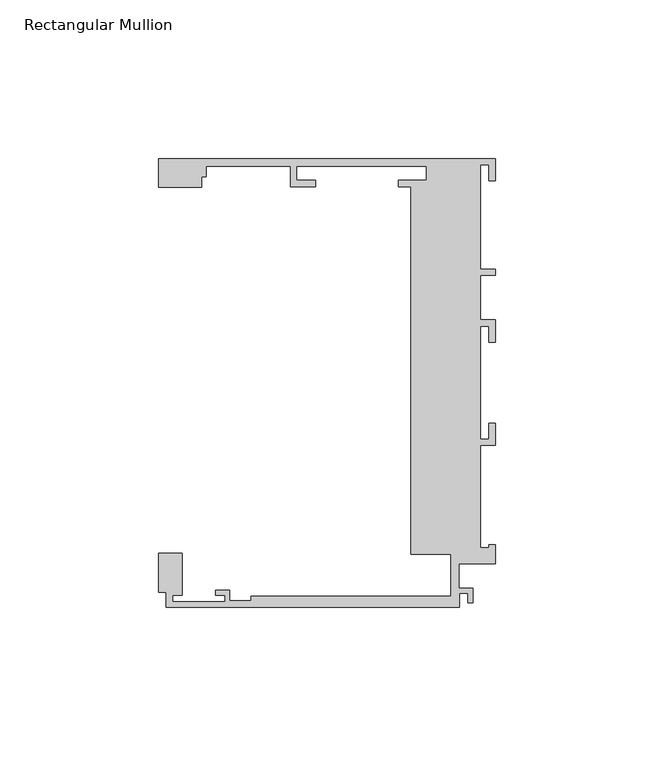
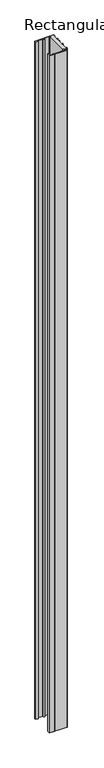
"""IFC4 building model written with IfcOpenShell, lengths in millimetres: member geometry, Rectangular Mullion : Danpal_K12_End-Mullion_B1."""

from ifc_helpers import new_model, si_unit, frame, origin, place, context, project, spatial, polyline, outline, extrude, source, transform, mapped, element, save


def rectangular_mullion_7b4f4ae0(model_context):
    return source(origin(), model_context, "Body", "SweptSolid", [
        extrude(outline(polyline([(-26.6209612, 117.8676658), (-30.6, 117.8676658), (-30.6, 119.8676658), (-21.835, 119.8676658), (-21.835, 124.2676658), (-62.7350275, 124.2676658), (-62.7350275, 119.8676658), (-56.7350275, 119.8676658), (-56.7350275, 117.8676658), (-64.7350275, 117.8676658), (-64.7350275, 124.2676658), (-91.2900275, 124.2676658), (-91.2900275, 121.0676175), (-92.8228167, 121.0676175), (-92.8228167, 117.6986749), (-106.4117426, 117.6986749), (-106.4117426, 126.7676657), (0.0, 126.7676657), (0.0, 119.7676657), (-2.0, 119.7676657), (-2.0, 124.7676657), (-4.8, 124.7676657), (-4.8, 91.8676485), (0.0, 91.8676485), (0.0, 89.8676485), (-4.8, 89.8676485), (-4.8, 75.867683), (0.0, 75.867683), (0.0, 68.8676657), (-2.0, 68.8676657), (-2.0, 73.8676657), (-4.8, 73.8676657), (-4.8, 38.2443486), (-2.0, 38.2443486), (-2.0, 43.2443486), (0.0, 43.2443486), (0.0, 36.2443486), (-4.8, 36.2443486), (-4.8, 3.9448486), (-2.0, 3.9448486), (-2.0, 4.9448486), (0.0, 4.9448486), (0.0, -1.0551514), (-11.6055875, -1.0551514), (-11.6055875, -8.8006425), (-7.1518595, -8.8006425), (-7.1518595, -13.3051514), (-8.6518595, -13.3051514), (-8.6518595, -10.3006425), (-11.4019537, -10.3006425), (-11.4019537, -14.8051514), (-103.8999976, -14.8051514), (-103.8999976, -10.065304), (-106.4117426, -10.065304), (-106.4117426, 2.316674), (-98.8999976, 2.316674), (-98.8999976, -11.0051513), (-101.8999976, -11.0051513), (-101.8999976, -13.0051512), (-85.3999976, -13.0051512), (-85.3999976, -11.0051513), (-88.3999976, -11.0051513), (-88.3999976, -9.5051512), (-83.8999976, -9.5051512), (-83.8999976, -12.8051513), (-77.1531178, -12.8051513), (-77.1531178, -11.3051512), (-14.1055875, -11.3051512), (-14.1055875, 1.9446289), (-26.6209612, 1.9446289), (-26.6209612, 117.8676658)])), frame((0.0, 0.0, -4000.0), z_axis=(0.0, 0.0, 1.0), x_axis=(1.0, 0.0, 0.0)), (0.0, 0.0, 1.0), 4000.0),
    ])


if __name__ == "__main__":
    model = new_model("IFC4")
    model_context = context("Model", 3, world=origin())
    ifc_project = project(units=[si_unit("LENGTHUNIT", "METRE", prefix="MILLI")], contexts=[model_context])
    site = spatial("IfcSite", under=ifc_project)
    building = spatial("IfcBuilding", under=site)
    placement = place(None, origin())
    rectangular_mullion_shape = rectangular_mullion_7b4f4ae0(model_context)
    element("IfcMember", 1, ObjectType="Rectangular Mullion : Danpal_K12_End-Mullion_B1", at=placement, inside=building, context=model_context, shape_type="MappedRepresentation", body=[
        mapped(rectangular_mullion_shape, transform((0.0, 0.0, 0.0), x_axis=(1.0, 0.0, 0.0), y_axis=(0.0, 1.0, 0.0), z_axis=(0.0, 0.0, 1.0))),
    ])
    save(model, "model.ifc")
